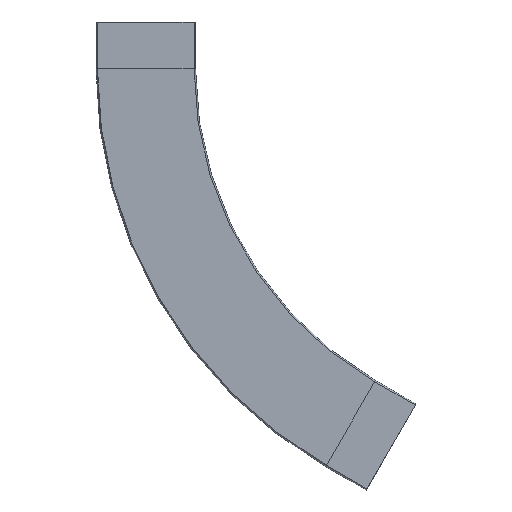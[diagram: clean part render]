
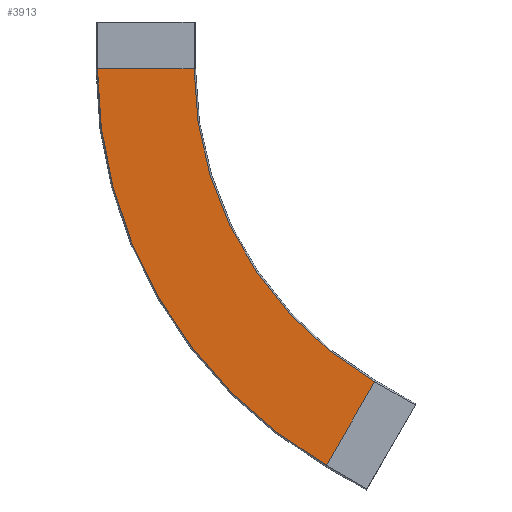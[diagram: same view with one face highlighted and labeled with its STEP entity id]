
A CAD part, front view. The second image highlights one B-rep face of the part: STEP entity #3913.
In plain terms, the highlighted planar face has unit normal (0, -1, 0).
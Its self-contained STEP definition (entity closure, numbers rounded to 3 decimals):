
#296 = VERTEX_POINT ( 'NONE', #1902 ) ;
#603 = FACE_OUTER_BOUND ( 'NONE', #753, .T. ) ;
#668 = AXIS2_PLACEMENT_3D ( 'NONE', #2729, #2355, #1629 ) ;
#687 = AXIS2_PLACEMENT_3D ( 'NONE', #3545, #1948, #1009 ) ;
#753 = EDGE_LOOP ( 'NONE', ( #4848, #4833, #4831, #4815 ) ) ;
#878 = AXIS2_PLACEMENT_3D ( 'NONE', #1611, #4972, #1641 ) ;
#1009 = DIRECTION ( 'NONE',  ( 0., 0., 1. ) ) ;
#1212 = DIRECTION ( 'NONE',  ( -1., 0., 0. ) ) ;
#1227 = CARTESIAN_POINT ( 'NONE',  ( 0., -56.5, -40. ) ) ;
#1503 = CARTESIAN_POINT ( 'NONE',  ( -41.275, -56.5, -40. ) ) ;
#1611 = CARTESIAN_POINT ( 'NONE',  ( 195.638, -56.5, -307.364 ) ) ;
#1622 = VERTEX_POINT ( 'NONE', #5040 ) ;
#1629 = DIRECTION ( 'NONE',  ( 0., 0., 1. ) ) ;
#1641 = DIRECTION ( 'NONE',  ( 0., 0., 1. ) ) ;
#1865 = VERTEX_POINT ( 'NONE', #2499 ) ;
#1902 = CARTESIAN_POINT ( 'NONE',  ( 154.363, -56.5, -378.854 ) ) ;
#1948 = DIRECTION ( 'NONE',  ( 0., 1., 0. ) ) ;
#2254 = VECTOR ( 'NONE', #1212, 1000. ) ;
#2281 = LINE ( 'NONE', #1227, #2254 ) ;
#2355 = DIRECTION ( 'NONE',  ( 0., 1., 0. ) ) ;
#2499 = CARTESIAN_POINT ( 'NONE',  ( 41.275, -56.5, -40. ) ) ;
#2729 = CARTESIAN_POINT ( 'NONE',  ( 350., -56.5, -40. ) ) ;
#2875 = EDGE_CURVE ( 'NONE', #1865, #5344, #2281, .T. ) ;
#3433 = CARTESIAN_POINT ( 'NONE',  ( 195.638, -56.5, -307.364 ) ) ;
#3545 = CARTESIAN_POINT ( 'NONE',  ( 350., -56.5, -40. ) ) ;
#3913 = ADVANCED_FACE ( 'NONE', ( #603 ), #4549, .F. ) ;
#4330 = EDGE_CURVE ( 'NONE', #296, #5344, #5333, .T. ) ;
#4340 = EDGE_CURVE ( 'NONE', #296, #1622, #5245, .T. ) ;
#4349 = EDGE_CURVE ( 'NONE', #1622, #1865, #5175, .T. ) ;
#4549 = PLANE ( 'NONE',  #878 ) ;
#4815 = ORIENTED_EDGE ( 'NONE', *, *, #4349, .T. ) ;
#4831 = ORIENTED_EDGE ( 'NONE', *, *, #4340, .T. ) ;
#4833 = ORIENTED_EDGE ( 'NONE', *, *, #4330, .F. ) ;
#4848 = ORIENTED_EDGE ( 'NONE', *, *, #2875, .T. ) ;
#4972 = DIRECTION ( 'NONE',  ( 0., 1., 0. ) ) ;
#5040 = CARTESIAN_POINT ( 'NONE',  ( 195.638, -56.5, -307.364 ) ) ;
#5175 = CIRCLE ( 'NONE', #668, 308.725 ) ;
#5231 = VECTOR ( 'NONE', #5269, 1000. ) ;
#5245 = LINE ( 'NONE', #3433, #5231 ) ;
#5269 = DIRECTION ( 'NONE',  ( 0.5, 0., 0.866 ) ) ;
#5333 = CIRCLE ( 'NONE', #687, 391.275 ) ;
#5344 = VERTEX_POINT ( 'NONE', #1503 ) ;
